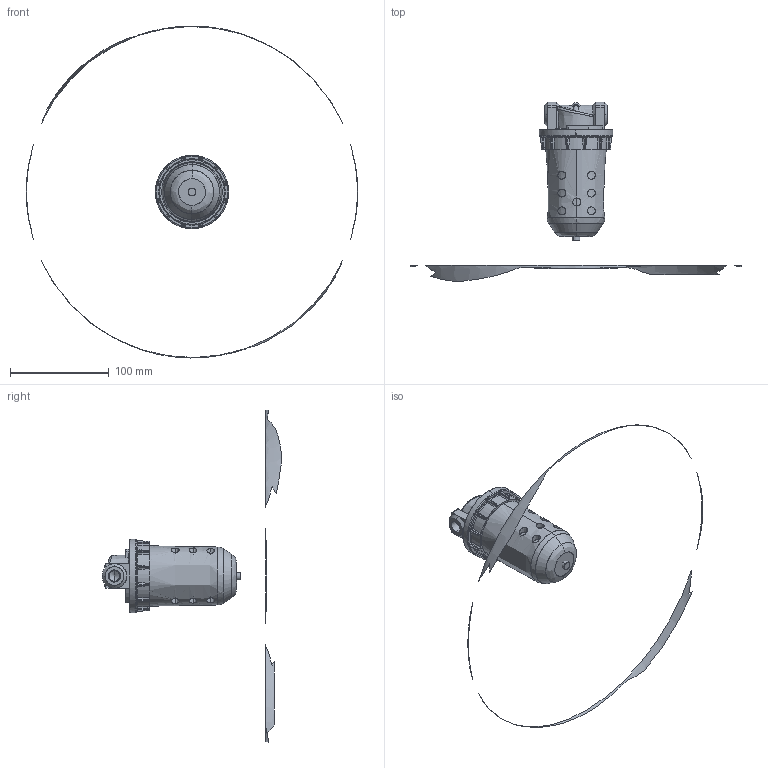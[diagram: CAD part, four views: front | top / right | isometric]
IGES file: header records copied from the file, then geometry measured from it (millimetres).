
Start section: SolidWorks IGES file using analytic representation for surfaces
Global section: file name: D:\Custom\3D繪製\FRL\F602\F602-02#YB#.IGS,1; native system: 5HSolidWorks 2014; preprocessor: SolidWorks 2014; author: Chieh_Lu; date: 160115.020246; units: millimetre
Bounding box: 335.1 x 181.86 x 335.68 mm (x, y, z)
Surface area: 45750.8 mm2 (no closed solid volume)
Topology: 0 solids, 0 shells, 376 faces, 5633 edges, 5629 vertices
Faces by surface type: bspline 210, revolution 166
